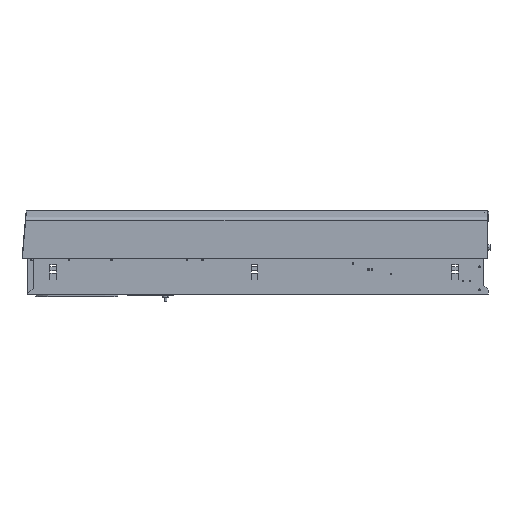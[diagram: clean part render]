
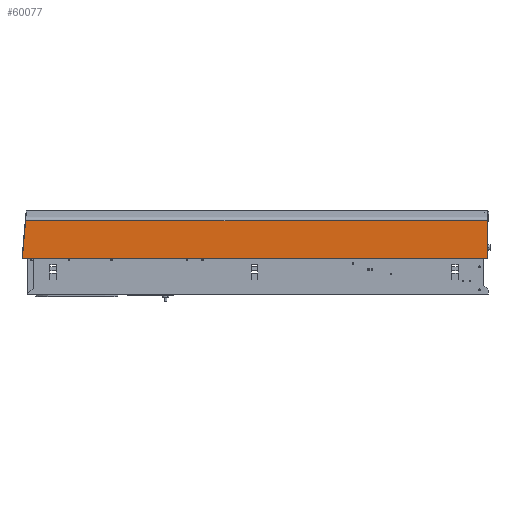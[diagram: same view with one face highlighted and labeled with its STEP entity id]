
A CAD part, left-side view. The second image highlights one B-rep face of the part: STEP entity #60077.
In plain terms, the highlighted planar face has unit normal (-1, 0, 0).
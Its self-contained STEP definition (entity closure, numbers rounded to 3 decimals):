
#5436 = EDGE_CURVE ( 'NONE', #94085, #125698, #43265, .T. ) ;
#7290 = CARTESIAN_POINT ( 'NONE',  ( -242.5, 761.398, 119.093 ) ) ;
#7539 = FACE_OUTER_BOUND ( 'NONE', #108013, .T. ) ;
#9709 = CARTESIAN_POINT ( 'NONE',  ( -242.5, -756.602, 243.38 ) ) ;
#16404 = DIRECTION ( 'NONE',  ( 0., 0., -1. ) ) ;
#24533 = VERTEX_POINT ( 'NONE', #148795 ) ;
#33691 = VECTOR ( 'NONE', #128282, 1000. ) ;
#42719 = CARTESIAN_POINT ( 'NONE',  ( -242.5, -756.602, 243.38 ) ) ;
#43265 = LINE ( 'NONE', #157391, #69514 ) ;
#54481 = EDGE_CURVE ( 'NONE', #94085, #164882, #156176, .T. ) ;
#60077 = ADVANCED_FACE ( 'NONE', ( #7539 ), #119066, .F. ) ;
#69010 = LINE ( 'NONE', #7290, #70876 ) ;
#69514 = VECTOR ( 'NONE', #101256, 1000. ) ;
#70279 = LINE ( 'NONE', #42719, #33691 ) ;
#70876 = VECTOR ( 'NONE', #127026, 1000. ) ;
#75128 = ORIENTED_EDGE ( 'NONE', *, *, #80071, .T. ) ;
#76257 = DIRECTION ( 'NONE',  ( 1., 0., 0. ) ) ;
#80071 = EDGE_CURVE ( 'NONE', #24533, #164882, #70279, .T. ) ;
#91276 = AXIS2_PLACEMENT_3D ( 'NONE', #105753, #76257, #16404 ) ;
#92190 = EDGE_CURVE ( 'NONE', #125698, #24533, #69010, .T. ) ;
#94085 = VERTEX_POINT ( 'NONE', #148800 ) ;
#101256 = DIRECTION ( 'NONE',  ( 0., 0.087, -0.996 ) ) ;
#102436 = VECTOR ( 'NONE', #157129, 1000. ) ;
#105753 = CARTESIAN_POINT ( 'NONE',  ( -242.5, 761.398, 243.38 ) ) ;
#108013 = EDGE_LOOP ( 'NONE', ( #75128, #115744, #115310, #112340 ) ) ;
#112340 = ORIENTED_EDGE ( 'NONE', *, *, #92190, .T. ) ;
#115310 = ORIENTED_EDGE ( 'NONE', *, *, #5436, .T. ) ;
#115744 = ORIENTED_EDGE ( 'NONE', *, *, #54481, .F. ) ;
#119066 = PLANE ( 'NONE',  #91276 ) ;
#122734 = CARTESIAN_POINT ( 'NONE',  ( -242.5, 775.857, 119.093 ) ) ;
#125698 = VERTEX_POINT ( 'NONE', #122734 ) ;
#127026 = DIRECTION ( 'NONE',  ( 0., -1., 0. ) ) ;
#128282 = DIRECTION ( 'NONE',  ( 0., 0., 1. ) ) ;
#148795 = CARTESIAN_POINT ( 'NONE',  ( -242.5, -756.602, 119.093 ) ) ;
#148800 = CARTESIAN_POINT ( 'NONE',  ( -242.5, 764.983, 243.38 ) ) ;
#156176 = LINE ( 'NONE', #187519, #102436 ) ;
#157129 = DIRECTION ( 'NONE',  ( 0., -1., 0. ) ) ;
#157391 = CARTESIAN_POINT ( 'NONE',  ( -242.5, 777.079, 105.123 ) ) ;
#164882 = VERTEX_POINT ( 'NONE', #9709 ) ;
#187519 = CARTESIAN_POINT ( 'NONE',  ( -242.5, 761.398, 243.38 ) ) ;
